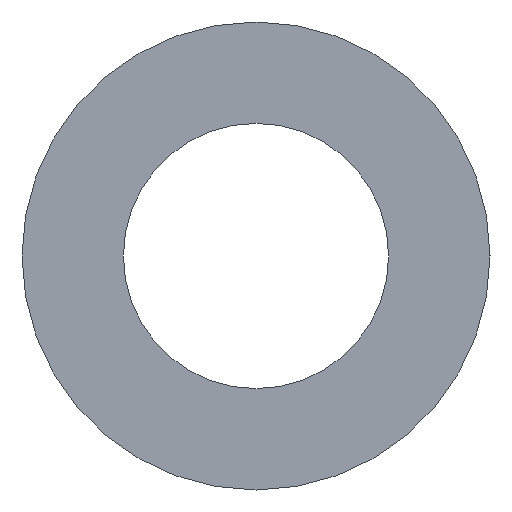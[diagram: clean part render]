
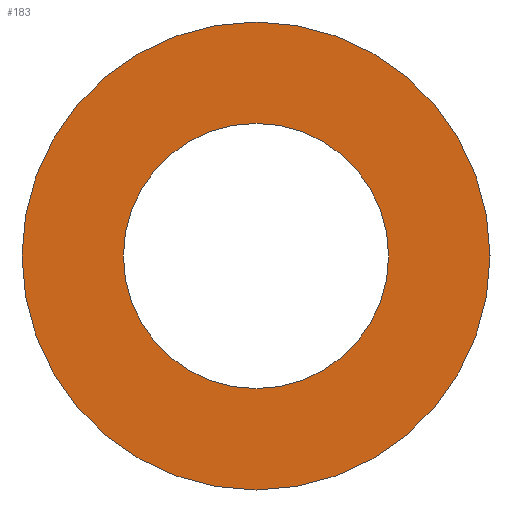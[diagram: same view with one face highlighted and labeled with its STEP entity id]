
A CAD part, left-side view. The second image highlights one B-rep face of the part: STEP entity #183.
In plain terms, the highlighted planar face has unit normal (-1, 0, 0).
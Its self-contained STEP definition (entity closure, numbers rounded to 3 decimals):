
#22 = VERTEX_POINT('',#23);
#23 = CARTESIAN_POINT('',(-68.,30.,0.));
#32 = CYLINDRICAL_SURFACE('',#33,30.);
#33 = AXIS2_PLACEMENT_3D('',#34,#35,#36);
#34 = CARTESIAN_POINT('',(-68.,0.,0.));
#35 = DIRECTION('',(-1.,-0.,-0.));
#36 = DIRECTION('',(0.,1.,0.));
#79 = EDGE_CURVE('',#22,#22,#80,.T.);
#80 = SURFACE_CURVE('',#81,(#86,#93),.PCURVE_S1.);
#81 = CIRCLE('',#82,30.);
#82 = AXIS2_PLACEMENT_3D('',#83,#84,#85);
#83 = CARTESIAN_POINT('',(-68.,0.,0.));
#84 = DIRECTION('',(1.,0.,0.));
#85 = DIRECTION('',(0.,1.,0.));
#86 = PCURVE('',#32,#87);
#87 = DEFINITIONAL_REPRESENTATION('',(#88),#92);
#88 = LINE('',#89,#90);
#89 = CARTESIAN_POINT('',(-0.,0.));
#90 = VECTOR('',#91,1.);
#91 = DIRECTION('',(-1.,0.));
#92 = ( GEOMETRIC_REPRESENTATION_CONTEXT(2) 
PARAMETRIC_REPRESENTATION_CONTEXT() REPRESENTATION_CONTEXT('2D SPACE',''
  ) );
#93 = PCURVE('',#94,#99);
#94 = PLANE('',#95);
#95 = AXIS2_PLACEMENT_3D('',#96,#97,#98);
#96 = CARTESIAN_POINT('',(-68.,0.,0.));
#97 = DIRECTION('',(1.,0.,0.));
#98 = DIRECTION('',(-0.,0.,1.));
#99 = DEFINITIONAL_REPRESENTATION('',(#100),#104);
#100 = CIRCLE('',#101,30.);
#101 = AXIS2_PLACEMENT_2D('',#102,#103);
#102 = CARTESIAN_POINT('',(0.,0.));
#103 = DIRECTION('',(0.,-1.));
#104 = ( GEOMETRIC_REPRESENTATION_CONTEXT(2) 
PARAMETRIC_REPRESENTATION_CONTEXT() REPRESENTATION_CONTEXT('2D SPACE',''
  ) );
#110 = VERTEX_POINT('',#111);
#111 = CARTESIAN_POINT('',(-68.,17.,0.));
#120 = CYLINDRICAL_SURFACE('',#121,17.);
#121 = AXIS2_PLACEMENT_3D('',#122,#123,#124);
#122 = CARTESIAN_POINT('',(-68.,0.,0.));
#123 = DIRECTION('',(-1.,-0.,-0.));
#124 = DIRECTION('',(0.,1.,0.));
#162 = EDGE_CURVE('',#110,#110,#163,.T.);
#163 = SURFACE_CURVE('',#164,(#169,#176),.PCURVE_S1.);
#164 = CIRCLE('',#165,17.);
#165 = AXIS2_PLACEMENT_3D('',#166,#167,#168);
#166 = CARTESIAN_POINT('',(-68.,0.,0.));
#167 = DIRECTION('',(1.,0.,0.));
#168 = DIRECTION('',(0.,1.,0.));
#169 = PCURVE('',#120,#170);
#170 = DEFINITIONAL_REPRESENTATION('',(#171),#175);
#171 = LINE('',#172,#173);
#172 = CARTESIAN_POINT('',(-0.,0.));
#173 = VECTOR('',#174,1.);
#174 = DIRECTION('',(-1.,0.));
#175 = ( GEOMETRIC_REPRESENTATION_CONTEXT(2) 
PARAMETRIC_REPRESENTATION_CONTEXT() REPRESENTATION_CONTEXT('2D SPACE',''
  ) );
#176 = PCURVE('',#94,#177);
#177 = DEFINITIONAL_REPRESENTATION('',(#178),#182);
#178 = CIRCLE('',#179,17.);
#179 = AXIS2_PLACEMENT_2D('',#180,#181);
#180 = CARTESIAN_POINT('',(0.,0.));
#181 = DIRECTION('',(0.,-1.));
#182 = ( GEOMETRIC_REPRESENTATION_CONTEXT(2) 
PARAMETRIC_REPRESENTATION_CONTEXT() REPRESENTATION_CONTEXT('2D SPACE',''
  ) );
#183 = ADVANCED_FACE('',(#184,#187),#94,.F.);
#184 = FACE_BOUND('',#185,.F.);
#185 = EDGE_LOOP('',(#186));
#186 = ORIENTED_EDGE('',*,*,#79,.T.);
#187 = FACE_BOUND('',#188,.F.);
#188 = EDGE_LOOP('',(#189));
#189 = ORIENTED_EDGE('',*,*,#162,.F.);
